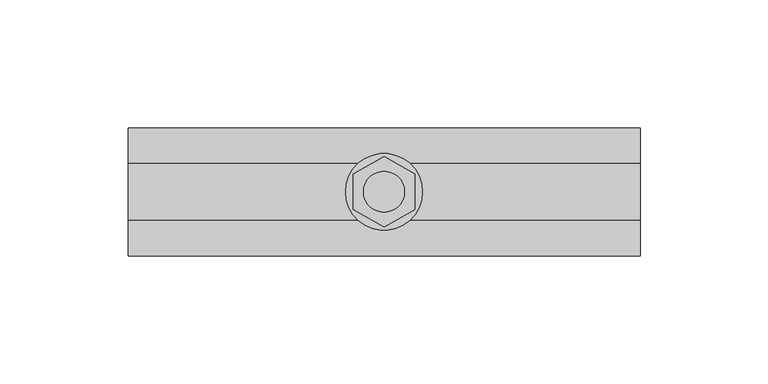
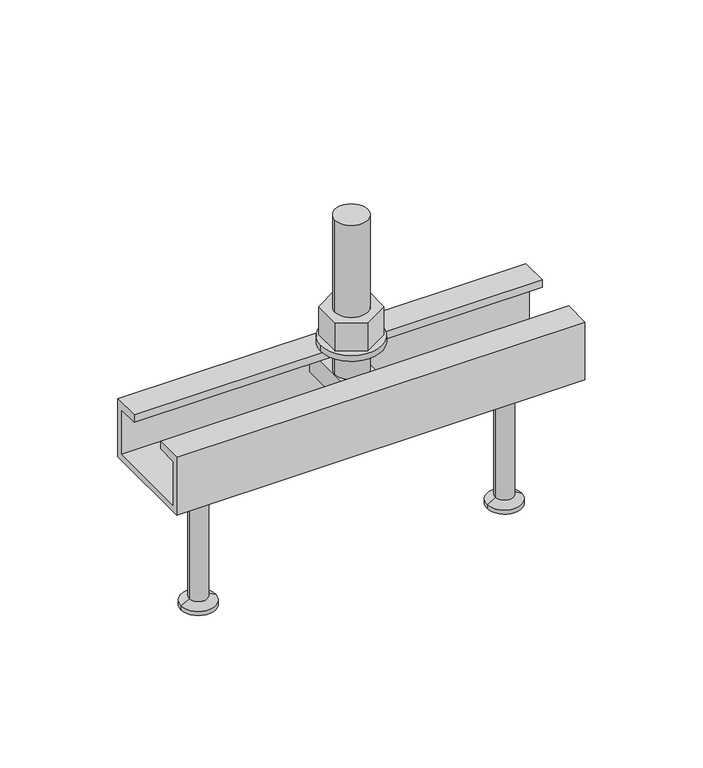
"""IFC4 building model written with IfcOpenShell, lengths in millimetres: beam geometry, JORDAHL_AnchorChannels_JTA_W : JTA W 50/30 200 mm."""

from ifc_helpers import new_model, si_unit, point, frame, frame_2d, origin, place, context, project, spatial, polyline, circle_curve, trimmed, segment, composite_curve, outline, extrude, source, transform, mapped, element, save
from ifc_brep_helpers import plane_surface, cylinder_surface, revolved_surface, advanced_brep


def beam_5c117049(model_context):
    return source(origin(), model_context, "Body", "SolidModel", [
        extrude(outline(composite_curve([segment(trimmed(circle_curve(frame_2d((100.0, 0.0)), 15.0), [point((85.0, 0.0))], [point((115.0, 0.0))], False, "CARTESIAN"), True, "CONTINUOUS"), segment(trimmed(circle_curve(frame_2d((100.0, 0.0)), 15.0), [point((115.0, 0.0))], [point((85.0, 0.0))], False, "CARTESIAN"), True, "CONTINUOUS")], self_intersect=False), holes=[composite_curve([segment(trimmed(circle_curve(frame_2d((100.0, 0.0)), 8.5), [point((91.5, 0.0))], [point((108.5, 0.0))], True, "CARTESIAN"), True, "CONTINUOUS"), segment(trimmed(circle_curve(frame_2d((100.0, 0.0)), 8.5), [point((108.5, 0.0))], [point((91.5, 0.0))], True, "CARTESIAN"), True, "CONTINUOUS")], self_intersect=False)]), frame((0.0, 0.0, 10.0), z_axis=(0.0, 0.0, 1.0), x_axis=(1.0, 0.0, 0.0)), (0.0, 0.0, 1.0), 3.0),
        extrude(outline(polyline([(100.0, 13.8564065), (112.0, 6.9282032), (112.0, -6.9282032), (100.0, -13.8564065), (88.0, -6.9282032), (88.0, 6.9282032), (100.0, 13.8564065)]), holes=[composite_curve([segment(trimmed(circle_curve(frame_2d((100.0, 0.0)), 8.0), [point((92.0, 0.0))], [point((108.0, 0.0))], True, "CARTESIAN"), True, "CONTINUOUS"), segment(trimmed(circle_curve(frame_2d((100.0, 0.0)), 8.0), [point((108.0, 0.0))], [point((92.0, 0.0))], True, "CARTESIAN"), True, "CONTINUOUS")], self_intersect=False)]), frame((0.0, 0.0, 13.0), z_axis=(0.0, 0.0, 1.0), x_axis=(1.0, 0.0, 0.0)), (0.0, 0.0, 1.0), 14.8),
        advanced_brep(
        [(108.5, 20.75, -4.5), (108.5, -20.75, -4.5), (108.5, -20.75, -15.5), (108.5, 20.75, -15.5), (91.5, 20.75, -4.5), (91.5, 20.75, -15.5), (91.5, -20.75, -15.5), (91.5, -20.75, -4.5), (108.0, 0.0, -4.5), (92.0, 0.0, -4.5), (92.0, 0.0, 75.5), (108.0, 0.0, 75.5)],
        [
            (0, 1),
            (1, 2),
            (2, 3),
            (3, 0),
            (4, 5),
            (5, 6),
            (6, 7),
            (7, 4),
            (0, 4),
            (7, 1),
            (8, 9, circle_curve(frame((100.0, 0.0, -4.5), z_axis=(0.0, 0.0, -1.0), x_axis=(1.0, 0.0, 0.0)), 8.0)),
            (9, 8, circle_curve(frame((100.0, 0.0, -4.5), z_axis=(0.0, 0.0, -1.0), x_axis=(1.0, 0.0, 0.0)), 8.0)),
            (6, 2),
            (5, 3),
            (10, 11, circle_curve(frame((100.0, 0.0, 75.5), z_axis=(0.0, 0.0, 1.0), x_axis=(1.0, 0.0, 0.0)), 8.0)),
            (11, 10, circle_curve(frame((100.0, 0.0, 75.5), z_axis=(0.0, 0.0, 1.0), x_axis=(1.0, 0.0, 0.0)), 8.0)),
            (10, 9),
            (8, 11),
        ],
        [
            plane_surface(frame((108.5, -12.25, -4.5), z_axis=(1.0, 0.0, 0.0), x_axis=(0.0, -1.0, 0.0))),
            plane_surface(frame((91.5, -12.25, -4.5), z_axis=(-1.0, 0.0, 0.0), x_axis=(0.0, 1.0, 0.0))),
            plane_surface(frame((108.5, 20.75, -4.5), z_axis=(0.0, 0.0, 1.0), x_axis=(-1.0, 0.0, 0.0))),
            plane_surface(frame((108.5, -20.75, -4.5), z_axis=(0.0, -1.0, 0.0), x_axis=(-1.0, 0.0, 0.0))),
            plane_surface(frame((108.5, -20.75, -15.5), z_axis=(0.0, 0.0, -1.0), x_axis=(-1.0, 0.0, 0.0))),
            plane_surface(frame((108.5, 20.75, -15.5), z_axis=(0.0, 1.0, 0.0), x_axis=(-1.0, 0.0, 0.0))),
            plane_surface(frame((108.0, 0.0, 75.5), z_axis=(0.0, 0.0, 1.0), x_axis=(0.0, 1.0, 0.0))),
            cylinder_surface(frame((100.0, 0.0, -4.5), z_axis=(0.0, 0.0, 1.0), x_axis=(1.0, 0.0, 0.0)), 8.0),
        ],
        [
            (0, [[1, 2, 3, 4]]),
            (1, [[5, 6, 7, 8]]),
            (2, [[-1, 9, -8, 10], [11, 12]]),
            (3, [[-2, -10, -7, 13]]),
            (4, [[-3, -13, -6, 14]]),
            (5, [[-4, -14, -5, -9]]),
            (6, [[15, 16]]),
            (7, [[-15, 17, -11, 18]]),
            (7, [[-16, -18, -12, -17]]),
        ],
    ),
        advanced_brep(
        [(175.0, 0.0, -30.0), (188.5, 0.0, -30.0), (161.5, 0.0, -30.0), (166.5, 0.0, -100.0), (183.5, 0.0, -100.0), (175.0, 0.0, -100.0), (166.5, 0.0, -98.0), (183.5, 0.0, -98.0), (170.5, 0.0, -95.6905989), (179.5, 0.0, -95.6905989), (170.5, 0.0, -32.5), (179.5, 0.0, -32.5)],
        [
            (0, 1),
            (1, 2, circle_curve(frame((175.0, 0.0, -30.0), z_axis=(0.0, 0.0, 1.0), x_axis=(1.0, 0.0, 0.0)), 13.5)),
            (2, 0),
            (2, 1, circle_curve(frame((175.0, 0.0, -30.0), z_axis=(0.0, 0.0, 1.0), x_axis=(1.0, 0.0, 0.0)), 13.5)),
            (3, 4, circle_curve(frame((175.0, 0.0, -100.0), z_axis=(0.0, 0.0, -1.0), x_axis=(1.0, 0.0, 0.0)), 8.5)),
            (4, 5),
            (5, 3),
            (4, 3, circle_curve(frame((175.0, 0.0, -100.0), z_axis=(0.0, 0.0, -1.0), x_axis=(1.0, 0.0, 0.0)), 8.5)),
            (6, 7, circle_curve(frame((175.0, 0.0, -98.0), z_axis=(0.0, 0.0, -1.0), x_axis=(1.0, 0.0, 0.0)), 8.5)),
            (7, 4),
            (3, 6),
            (7, 6, circle_curve(frame((175.0, 0.0, -98.0), z_axis=(0.0, 0.0, -1.0), x_axis=(1.0, 0.0, 0.0)), 8.5)),
            (8, 9, circle_curve(frame((175.0, 0.0, -95.6905989), z_axis=(0.0, 0.0, -1.0), x_axis=(1.0, 0.0, 0.0)), 4.5)),
            (9, 7),
            (6, 8),
            (9, 8, circle_curve(frame((175.0, 0.0, -95.6905989), z_axis=(0.0, 0.0, -1.0), x_axis=(1.0, 0.0, 0.0)), 4.5)),
            (10, 11, circle_curve(frame((175.0, 0.0, -32.5), z_axis=(0.0, 0.0, -1.0), x_axis=(1.0, 0.0, 0.0)), 4.5)),
            (11, 9),
            (8, 10),
            (11, 10, circle_curve(frame((175.0, 0.0, -32.5), z_axis=(0.0, 0.0, -1.0), x_axis=(1.0, 0.0, 0.0)), 4.5)),
            (1, 11),
            (10, 2),
        ],
        [
            plane_surface(frame((175.0, 0.0, -30.0), z_axis=(0.0, 0.0, 1.0), x_axis=(1.0, 0.0, 0.0))),
            plane_surface(frame((175.0, 0.0, -100.0), z_axis=(0.0, 0.0, -1.0), x_axis=(1.0, 0.0, 0.0))),
            cylinder_surface(frame((175.0, 0.0, 2214.3150031), z_axis=(0.0, 0.0, 1.0), x_axis=(1.0, 0.0, 0.0)), 8.5),
            revolved_surface(polyline([(183.5, 0.0, -98.0), (179.5, 0.0, -95.6905989)]), (175.0, 0.0, 2214.3150031), (0.0, 0.0, 1.0)),
            cylinder_surface(frame((175.0, 0.0, 2214.3150031), z_axis=(0.0, 0.0, 1.0), x_axis=(1.0, 0.0, 0.0)), 4.5),
            revolved_surface(polyline([(179.5, 0.0, -32.5), (188.5, 0.0, -30.0)]), (175.0, 0.0, 2214.3150031), (0.0, 0.0, 1.0)),
        ],
        [
            (0, [[1, 2, 3]]),
            (0, [[-3, 4, -1]]),
            (1, [[5, 6, 7]]),
            (1, [[8, -7, -6]]),
            (2, [[9, 10, -5, 11]]),
            (2, [[12, -11, -8, -10]]),
            (3, [[13, 14, -9, 15]]),
            (3, [[16, -15, -12, -14]]),
            (4, [[17, 18, -13, 19]]),
            (4, [[20, -19, -16, -18]]),
            (5, [[-2, 21, -17, 22]]),
            (5, [[-4, -22, -20, -21]]),
        ],
    ),
        advanced_brep(
        [(25.0, 0.0, -30.0), (38.5, 0.0, -30.0), (11.5, 0.0, -30.0), (16.5, 0.0, -100.0), (33.5, 0.0, -100.0), (25.0, 0.0, -100.0), (16.5, 0.0, -98.0), (33.5, 0.0, -98.0), (20.5, 0.0, -95.6905989), (29.5, 0.0, -95.6905989), (20.5, 0.0, -32.5), (29.5, 0.0, -32.5)],
        [
            (0, 1),
            (1, 2, circle_curve(frame((25.0, 0.0, -30.0), z_axis=(0.0, 0.0, 1.0), x_axis=(1.0, 0.0, 0.0)), 13.5)),
            (2, 0),
            (2, 1, circle_curve(frame((25.0, 0.0, -30.0), z_axis=(0.0, 0.0, 1.0), x_axis=(1.0, 0.0, 0.0)), 13.5)),
            (3, 4, circle_curve(frame((25.0, 0.0, -100.0), z_axis=(0.0, 0.0, -1.0), x_axis=(1.0, 0.0, 0.0)), 8.5)),
            (4, 5),
            (5, 3),
            (4, 3, circle_curve(frame((25.0, 0.0, -100.0), z_axis=(0.0, 0.0, -1.0), x_axis=(1.0, 0.0, 0.0)), 8.5)),
            (6, 7, circle_curve(frame((25.0, 0.0, -98.0), z_axis=(0.0, 0.0, -1.0), x_axis=(1.0, 0.0, 0.0)), 8.5)),
            (7, 4),
            (3, 6),
            (7, 6, circle_curve(frame((25.0, 0.0, -98.0), z_axis=(0.0, 0.0, -1.0), x_axis=(1.0, 0.0, 0.0)), 8.5)),
            (8, 9, circle_curve(frame((25.0, 0.0, -95.6905989), z_axis=(0.0, 0.0, -1.0), x_axis=(1.0, 0.0, 0.0)), 4.5)),
            (9, 7),
            (6, 8),
            (9, 8, circle_curve(frame((25.0, 0.0, -95.6905989), z_axis=(0.0, 0.0, -1.0), x_axis=(1.0, 0.0, 0.0)), 4.5)),
            (10, 11, circle_curve(frame((25.0, 0.0, -32.5), z_axis=(0.0, 0.0, -1.0), x_axis=(1.0, 0.0, 0.0)), 4.5)),
            (11, 9),
            (8, 10),
            (11, 10, circle_curve(frame((25.0, 0.0, -32.5), z_axis=(0.0, 0.0, -1.0), x_axis=(1.0, 0.0, 0.0)), 4.5)),
            (1, 11),
            (10, 2),
        ],
        [
            plane_surface(frame((25.0, 0.0, -30.0), z_axis=(0.0, 0.0, 1.0), x_axis=(1.0, 0.0, 0.0))),
            plane_surface(frame((25.0, 0.0, -100.0), z_axis=(0.0, 0.0, -1.0), x_axis=(1.0, 0.0, 0.0))),
            cylinder_surface(frame((25.0, 0.0, 2214.3150031), z_axis=(0.0, 0.0, 1.0), x_axis=(1.0, 0.0, 0.0)), 8.5),
            revolved_surface(polyline([(33.5, 0.0, -98.0), (29.5, 0.0, -95.6905989)]), (25.0, 0.0, 2214.3150031), (0.0, 0.0, 1.0)),
            cylinder_surface(frame((25.0, 0.0, 2214.3150031), z_axis=(0.0, 0.0, 1.0), x_axis=(1.0, 0.0, 0.0)), 4.5),
            revolved_surface(polyline([(29.5, 0.0, -32.5), (38.5, 0.0, -30.0)]), (25.0, 0.0, 2214.3150031), (0.0, 0.0, 1.0)),
        ],
        [
            (0, [[1, 2, 3]]),
            (0, [[-3, 4, -1]]),
            (1, [[5, 6, 7]]),
            (1, [[8, -7, -6]]),
            (2, [[9, 10, -5, 11]]),
            (2, [[12, -11, -8, -10]]),
            (3, [[13, 14, -9, 15]]),
            (3, [[16, -15, -12, -14]]),
            (4, [[17, 18, -13, 19]]),
            (4, [[20, -19, -16, -18]]),
            (5, [[-2, 21, -17, 22]]),
            (5, [[-4, -22, -20, -21]]),
        ],
    ),
        extrude(outline(polyline([(25.0, 0.0), (25.0, -30.0), (-25.0, -30.0), (-25.0, 0.0), (-11.25, 0.0), (-11.25, -4.0), (-22.2, -4.0), (-22.2, -27.2), (22.2, -27.2), (22.2, -4.0), (11.25, -4.0), (11.25, 0.0), (25.0, 0.0)])), frame((0.0, 0.0, 0.0), z_axis=(1.0, 0.0, 0.0), x_axis=(0.0, 1.0, 0.0)), (0.0, 0.0, 1.0), 200.0),
    ])


if __name__ == "__main__":
    model = new_model("IFC4")
    model_context = context("Model", 3, world=origin())
    ifc_project = project(units=[si_unit("LENGTHUNIT", "METRE", prefix="MILLI")], contexts=[model_context])
    site = spatial("IfcSite", under=ifc_project)
    building = spatial("IfcBuilding", under=site)
    placement = place(None, origin())
    beam_shape = beam_5c117049(model_context)
    element("IfcBeam", 1, ObjectType="JORDAHL_AnchorChannels_JTA_W : JTA W 50/30 200 mm", at=placement, inside=building, context=model_context, shape_type="MappedRepresentation", body=[
        mapped(beam_shape, transform((0.0, 0.0, 0.0), x_axis=(1.0, 0.0, 0.0), y_axis=(0.0, 1.0, 0.0), z_axis=(0.0, 0.0, 1.0))),
    ])
    save(model, "model.ifc")
